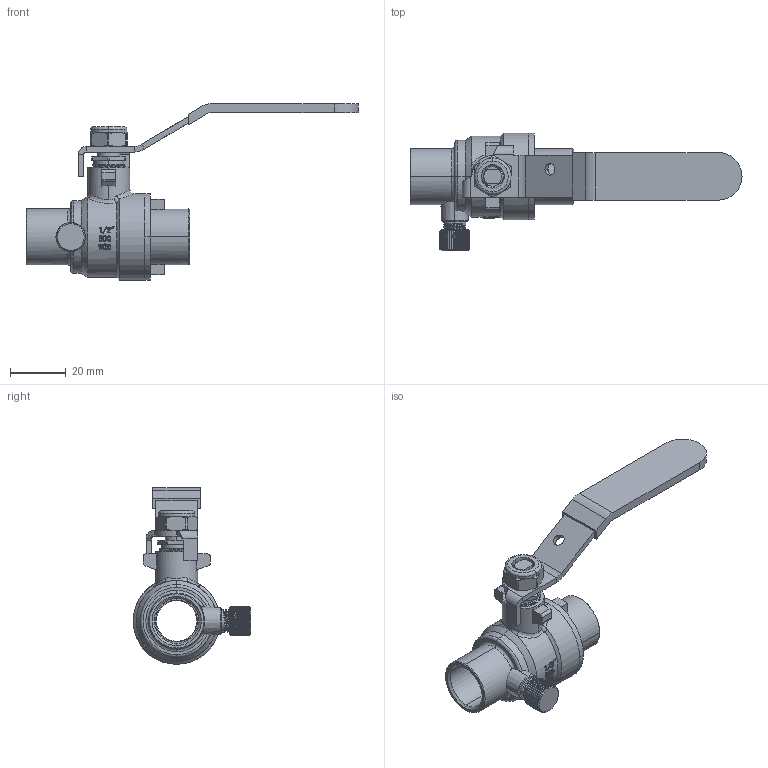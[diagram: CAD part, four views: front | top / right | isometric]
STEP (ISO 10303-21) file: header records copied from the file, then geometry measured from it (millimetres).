
FILE_DESCRIPTION(('Open CASCADE Model'),'2;1');
FILE_NAME('Open CASCADE Shape Model','2021-12-14T10:47:53',('Author'),( 'Open CASCADE'),'Open CASCADE STEP processor 7.3','Open CASCADE 7.3' ,'Unknown');
FILE_SCHEMA(('AUTOMOTIVE_DESIGN { 1 0 10303 214 1 1 1 1 }'));
Length unit declared in the file: millimetre
Products named in the file (15): Open CASCADE STEP translator 7.3 1; Open CASCADE STEP translator 7.3 1.1; Open CASCADE STEP translator 7.3 1.2; Open CASCADE STEP translator 7.3 1.3; Open CASCADE STEP translator 7.3 1.4; Open CASCADE STEP translator 7.3 1.5; Open CASCADE STEP translator 7.3 1.6; Open CASCADE STEP translator 7.3 1.7; Open CASCADE STEP translator 7.3 1.8; Open CASCADE STEP translator 7.3 1.9; Open CASCADE STEP translator 7.3 1.10; Open CASCADE STEP translator 7.3 1.11; Open CASCADE STEP translator 7.3 1.12; Open CASCADE STEP translator 7.3 1.13; Open CASCADE STEP translator 7.3 1.14
Assembly tree (14 placements, depth 2):
  Open CASCADE STEP translator 7.3 1
    Open CASCADE STEP translator 7.3 1.1
    Open CASCADE STEP translator 7.3 1.2
    Open CASCADE STEP translator 7.3 1.3
    Open CASCADE STEP translator 7.3 1.4
    Open CASCADE STEP translator 7.3 1.5
    Open CASCADE STEP translator 7.3 1.6
    Open CASCADE STEP translator 7.3 1.7
    Open CASCADE STEP translator 7.3 1.8
    Open CASCADE STEP translator 7.3 1.9
    Open CASCADE STEP translator 7.3 1.10
    Open CASCADE STEP translator 7.3 1.11
    Open CASCADE STEP translator 7.3 1.12
    Open CASCADE STEP translator 7.3 1.13
    Open CASCADE STEP translator 7.3 1.14
Bounding box: 118.7 x 42 x 63.15 mm (x, y, z)
Volume: 25672.8 mm3; surface area: 24515.2 mm2
Topology: 14 solids, 14 shells, 908 faces, 2465 edges, 1607 vertices
Faces by surface type: cylinder 395, plane 250, bspline 153, cone 74, torus 28, sphere 6, revolution 2
Entity records: 141425 total; most frequent: CARTESIAN_POINT 98322, DIRECTION 6102, ORIENTED_EDGE 4926, PCURVE 4926, DEFINITIONAL_REPRESENTATION 4926, LINE 3207, VECTOR 3207, B_SPLINE_CURVE_WITH_KNOTS 3117
